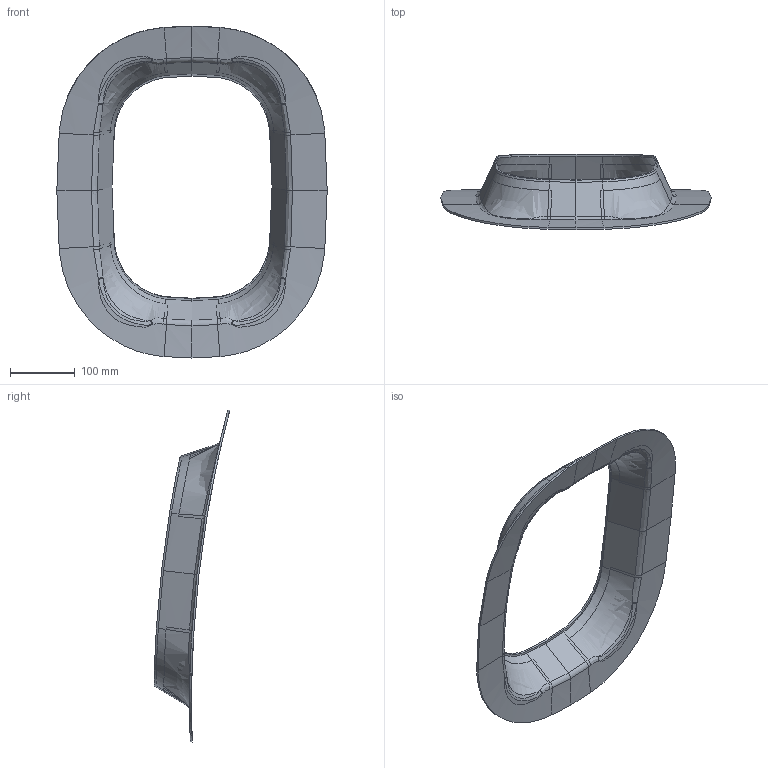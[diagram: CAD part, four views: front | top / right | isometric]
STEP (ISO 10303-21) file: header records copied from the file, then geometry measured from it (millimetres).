
FILE_DESCRIPTION(('Open CASCADE Model'),'2;1');
FILE_NAME('Open CASCADE Shape Model','2026-10-14T17:01:29',('Author'),( 'Open CASCADE'),'Open CASCADE STEP processor 7.8','Open CASCADE 7.8' ,'Unknown');
FILE_SCHEMA(('AUTOMOTIVE_DESIGN { 1 0 10303 214 1 1 1 1 }'));
Products named in the file (1): Open CASCADE STEP translator 7.8 2
Bounding box: 417 x 116.89 x 512.05 mm (x, y, z)
Volume: 440129.8 mm3; surface area: 300884.7 mm2
Topology: 1 solids, 1 shells, 188 faces, 450 edges, 242 vertices
Faces by surface type: cylinder 68, bspline 64, cone 52, offset 4
Entity records: 59210 total; most frequent: CARTESIAN_POINT 52461, ORIENTED_EDGE 860, PCURVE 860, DEFINITIONAL_REPRESENTATION 860, B_SPLINE_CURVE_WITH_KNOTS 840, DIRECTION 652, EDGE_CURVE 430, SURFACE_CURVE 430
